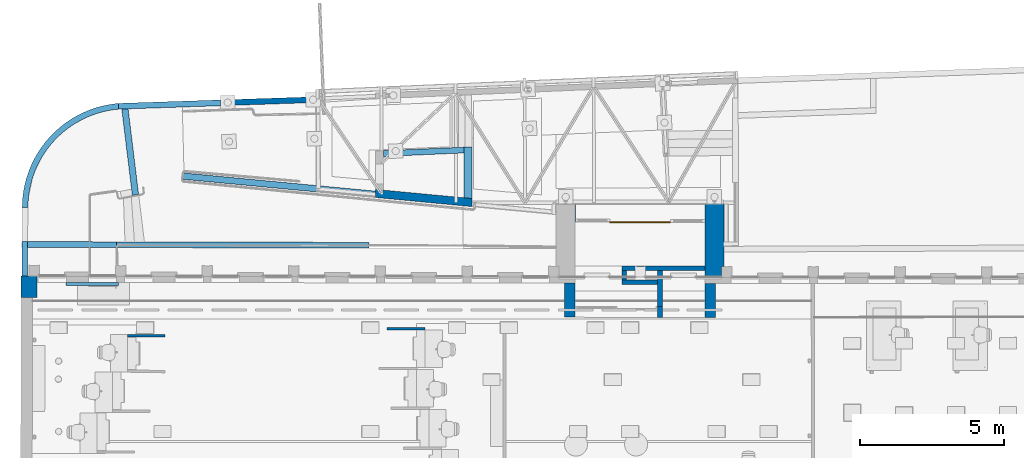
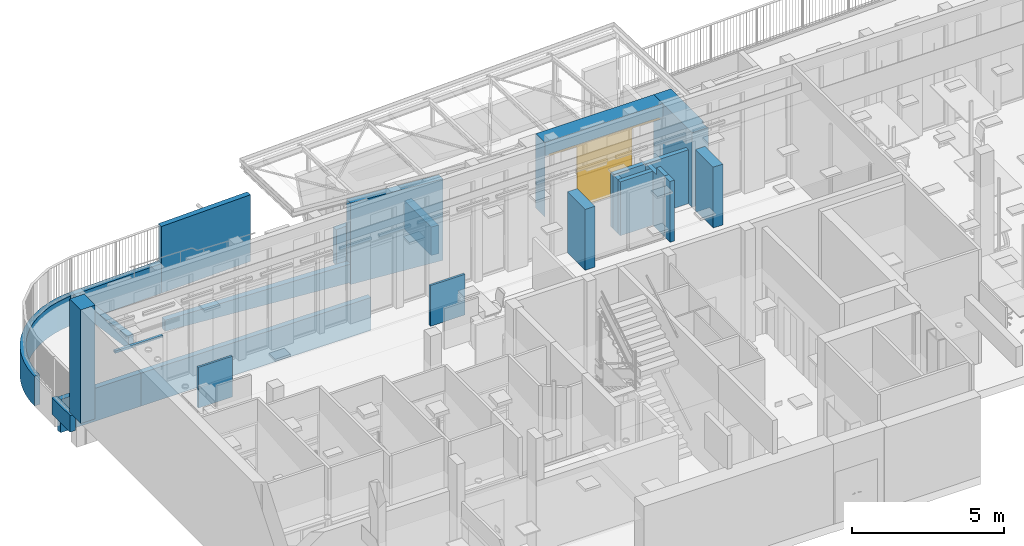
# One storey, part 31 of 128: 24 walls, 1 door, 5 openings.
"""IFC2X3 building model written with IfcOpenShell, lengths in metres."""

import ifcopenshell
import ifcopenshell.guid

model = None  # the IFC model being written
_history = None  # IfcOwnerHistory: only IFC2X3 demands one
_inside = {}  # id of a spatial element -> (the spatial element, [elements in it])
_under = {}  # id of a project, library or spatial element -> (it, [spatial elements below it])
_declared = {}  # id of a project -> (the project, [libraries it declares])
_typed = {}  # id of a type object -> (the type object, [elements of that type])
_made_of = {}  # id of a material, layer set ... -> (it, [elements and type objects made of it])


def new_model(schema):
    """Start an empty IFC model of exactly this schema.

    Asked for "IFC4X3", IfcOpenShell would pick the latest addendum, in which some entities
    have other attributes; the version numbers below select the first issue.
    IFC2X3 requires an IfcOwnerHistory on every rooted entity: one is made here for all.
    """
    global model, _history
    if schema == "IFC4X3":
        model = ifcopenshell.file(schema_version=(4, 3, 0, 0))
    else:
        model = ifcopenshell.file(schema=schema)
    _inside.clear()
    _under.clear()
    _declared.clear()
    _typed.clear()
    _made_of.clear()
    _history = None
    if model.schema == "IFC2X3":
        org = make("IfcOrganization", Name="unknown")
        user = make(
            "IfcPersonAndOrganization",
            ThePerson=make("IfcPerson", FamilyName="unknown"),
            TheOrganization=org,
        )
        app = make(
            "IfcApplication",
            ApplicationDeveloper=org,
            Version="unknown",
            ApplicationFullName="unknown",
            ApplicationIdentifier="unknown",
        )
        _history = make(
            "IfcOwnerHistory",
            OwningUser=user,
            OwningApplication=app,
            ChangeAction="ADDED",
            CreationDate=0,
        )
    return model


def make(cls, **values):
    """One entity of the class cls with the attributes given. An attribute that is None is left unset."""
    return model.create_entity(
        cls, **{name: value for name, value in values.items() if value is not None}
    )


def entity(cls, *values):
    """Any entity or typed value of the class cls, its attributes in the order of the schema. None: left unset."""
    e = model.create_entity(cls)
    for i, value in enumerate(values):
        if value is not None:
            e[i] = value
    return e


def rooted(cls, **values):
    """An entity with a GlobalId (a new one), such as an element, a storey or a relation."""
    return make(cls, GlobalId=ifcopenshell.guid.new(), OwnerHistory=_history, **values)


def si_unit(unit_type, name, prefix=None):
    """IfcSIUnit, for example si_unit("LENGTHUNIT", "METRE", prefix="MILLI")."""
    return make("IfcSIUnit", UnitType=unit_type, Prefix=prefix, Name=name)


def converted_unit(unit_type, name, factor, base, dimensions=None, offset=None):
    """IfcConversionBasedUnit, such as the inch: factor (a typed value) times the base unit."""
    return make(
        "IfcConversionBasedUnit"
        if offset is None
        else "IfcConversionBasedUnitWithOffset",
        ConversionOffset=offset,
        Dimensions=None
        if dimensions is None
        else entity("IfcDimensionalExponents", *dimensions),
        UnitType=unit_type,
        Name=name,
        ConversionFactor=make(
            "IfcMeasureWithUnit", ValueComponent=factor, UnitComponent=base
        ),
    )


def derived_unit(unit_type, elements):
    """IfcDerivedUnit: a product of units, each with its exponent."""
    return make(
        "IfcDerivedUnit",
        Elements=[
            make("IfcDerivedUnitElement", Unit=unit, Exponent=power)
            for unit, power in elements
        ],
        UnitType=unit_type,
    )


def assignment(units):
    """IfcUnitAssignment: the units of a project."""
    return None if units is None else make("IfcUnitAssignment", Units=units)


def point(xyz):
    """IfcCartesianPoint."""
    return None if xyz is None else make("IfcCartesianPoint", Coordinates=xyz)


def direction(xyz):
    """IfcDirection."""
    return None if xyz is None else make("IfcDirection", DirectionRatios=xyz)


def frame(location, z_axis=None, x_axis=None):
    """IfcAxis2Placement3D, a coordinate frame: its origin and axes. An axis left out is left unset."""
    return make(
        "IfcAxis2Placement3D",
        Location=point(location),
        Axis=direction(z_axis),
        RefDirection=direction(x_axis),
    )


def frame_2d(location, x_axis=None):
    """IfcAxis2Placement2D, a coordinate frame in the plane: its origin and x axis."""
    return make(
        "IfcAxis2Placement2D", Location=point(location), RefDirection=direction(x_axis)
    )


def origin():
    """The frame at (0, 0, 0) with its axes left unset."""
    return frame((0.0, 0.0, 0.0))


def origin_2d_with_axis():
    """The frame at (0, 0) in the plane with the x axis (1, 0) written out."""
    return frame_2d((0.0, 0.0), x_axis=(1.0, 0.0))


def place(relative_to, where):
    """IfcLocalPlacement: puts the frame where relative to a parent placement (None: the world)."""
    return make(
        "IfcLocalPlacement", PlacementRelTo=relative_to, RelativePlacement=where
    )


def context(
    kind, dimensions, precision=None, world=None, true_north=None, identifier=None
):
    """IfcGeometricRepresentationContext, for example the 3D "Model" context."""
    return make(
        "IfcGeometricRepresentationContext",
        ContextIdentifier=identifier,
        ContextType=kind,
        CoordinateSpaceDimension=dimensions,
        Precision=precision,
        WorldCoordinateSystem=world,
        TrueNorth=true_north,
    )


def subcontext(parent, identifier, kind, view, scale=None):
    """IfcGeometricRepresentationSubContext, for example "Body" below "Model"."""
    return make(
        "IfcGeometricRepresentationSubContext",
        ContextIdentifier=identifier,
        ContextType=kind,
        ParentContext=parent,
        TargetScale=scale,
        TargetView=view,
    )


def project(units=None, contexts=None):
    """IfcProject with its units and contexts."""
    return rooted(
        "IfcProject",
        Name="project",
        RepresentationContexts=contexts,
        UnitsInContext=assignment(units),
    )


def spatial(cls, under=None, at=None, **own):
    """A site, building, storey or space (cls), placed at a placement, below another one or the project."""
    s = rooted(cls, ObjectPlacement=at, **own)
    if under is not None:
        _under.setdefault(under.id(), (under, []))[1].append(s)
    return s


def polyline(points):
    """IfcPolyline through the points."""
    return make("IfcPolyline", Points=[point(p) for p in points])


def circle_curve(where, radius):
    """IfcCircle in the frame where."""
    return make("IfcCircle", Position=where, Radius=radius)


def parameter(value):
    """IfcParameterValue: where a trimmed curve begins or ends, as a parameter of its basis curve."""
    return model.create_entity("IfcParameterValue", value)


def trimmed(basis, trim1, trim2, sense, master):
    """IfcTrimmedCurve: the piece of a basis curve between two trims."""
    return make(
        "IfcTrimmedCurve",
        BasisCurve=basis,
        Trim1=trim1,
        Trim2=trim2,
        SenseAgreement=sense,
        MasterRepresentation=master,
    )


def segment(curve, same_sense, transition):
    """IfcCompositeCurveSegment."""
    return make(
        "IfcCompositeCurveSegment",
        Transition=transition,
        SameSense=same_sense,
        ParentCurve=curve,
    )


def composite_curve(segments, self_intersect=None):
    """IfcCompositeCurve: segments joined end to end."""
    return make("IfcCompositeCurve", Segments=segments, SelfIntersect=self_intersect)


def profile(cls, at=None, kind="AREA", **sizes):
    """A parametric profile (cls). Its sizes go by their IFC names, for example OverallWidth=200.0."""
    return make(cls, ProfileType=kind, Position=at, **sizes)


def rectangle(**sizes):
    """IfcRectangleProfileDef."""
    return profile("IfcRectangleProfileDef", **sizes)


def outline(outer, holes=None, kind="AREA"):
    """IfcArbitraryClosedProfileDef: a profile drawn as a closed curve; with holes, ...WithVoids."""
    if holes is None:
        return make("IfcArbitraryClosedProfileDef", ProfileType=kind, OuterCurve=outer)
    return make(
        "IfcArbitraryProfileDefWithVoids",
        ProfileType=kind,
        OuterCurve=outer,
        InnerCurves=holes,
    )


def extrude(swept, where, along, depth):
    """IfcExtrudedAreaSolid: the profile swept, set in the frame where, extruded along a direction by depth."""
    return make(
        "IfcExtrudedAreaSolid",
        SweptArea=swept,
        Position=where,
        ExtrudedDirection=direction(along),
        Depth=depth,
    )


def clip(a, b, op="DIFFERENCE"):
    """IfcBooleanClippingResult: the solid a cut by the half space b."""
    return make(
        "IfcBooleanClippingResult", Operator=op, FirstOperand=a, SecondOperand=b
    )


def halfspace(plane, agree):
    """IfcHalfSpaceSolid: all space on one side of the plane z = 0 of the frame plane."""
    return make(
        "IfcHalfSpaceSolid",
        BaseSurface=make("IfcPlane", Position=plane),
        AgreementFlag=agree,
    )


def bounded_halfspace(plane, agree, where, boundary):
    """IfcPolygonalBoundedHalfSpace: a half space limited to a polygon's prism."""
    return make(
        "IfcPolygonalBoundedHalfSpace",
        BaseSurface=make("IfcPlane", Position=plane),
        AgreementFlag=agree,
        Position=where,
        PolygonalBoundary=boundary,
    )


def shape(context_of_items, identifier, shape_type, items):
    """IfcShapeRepresentation: the items that make up one representation, for example the "Body"."""
    return make(
        "IfcShapeRepresentation",
        ContextOfItems=context_of_items,
        RepresentationIdentifier=identifier,
        RepresentationType=shape_type,
        Items=items,
    )


def source(mapping_origin, context_of_items, identifier, shape_type, items):
    """IfcRepresentationMap: a shape defined once, which mapped items show again and again."""
    return make(
        "IfcRepresentationMap",
        MappingOrigin=mapping_origin,
        MappedRepresentation=shape(context_of_items, identifier, shape_type, items),
    )


def transform(
    local_origin,
    x_axis=None,
    y_axis=None,
    z_axis=None,
    scale=None,
    scale2=None,
    scale3=None,
    uniform=True,
):
    """IfcCartesianTransformationOperator3D, or its non-uniform kind. x_axis, y_axis, z_axis: its Axis1, 2, 3."""
    if uniform:
        return make(
            "IfcCartesianTransformationOperator3D",
            Axis1=direction(x_axis),
            Axis2=direction(y_axis),
            LocalOrigin=point(local_origin),
            Scale=scale,
            Axis3=direction(z_axis),
        )
    return make(
        "IfcCartesianTransformationOperator3DnonUniform",
        Axis1=direction(x_axis),
        Axis2=direction(y_axis),
        LocalOrigin=point(local_origin),
        Scale=scale,
        Axis3=direction(z_axis),
        Scale2=scale2,
        Scale3=scale3,
    )


def mapped(mapping_source, mapping_target):
    """IfcMappedItem: shows the shape of a source again, moved by a transform."""
    return make(
        "IfcMappedItem", MappingSource=mapping_source, MappingTarget=mapping_target
    )


def material(Name=None, Category=None):
    """IfcMaterial."""
    return make("IfcMaterial", Name=Name, Category=Category)


def material_list(materials):
    """IfcMaterialList."""
    return make("IfcMaterialList", Materials=materials)


def layer(
    of_material, thickness, ventilated=None, Name=None, Category=None, Priority=None
):
    """IfcMaterialLayer: one layer of a wall or slab, of a material (None: an air gap)."""
    return make(
        "IfcMaterialLayer",
        Material=of_material,
        LayerThickness=thickness,
        IsVentilated=ventilated,
        Name=Name,
        Category=Category,
        Priority=Priority,
    )


def layer_set(layers, Name=None):
    """IfcMaterialLayerSet."""
    return make("IfcMaterialLayerSet", MaterialLayers=layers, LayerSetName=Name)


def layer_usage(for_layer_set, set_direction, sense, offset, extent=None):
    """IfcMaterialLayerSetUsage: how a layer set lies in its element."""
    return make(
        "IfcMaterialLayerSetUsage",
        ForLayerSet=for_layer_set,
        LayerSetDirection=set_direction,
        DirectionSense=sense,
        OffsetFromReferenceLine=offset,
        ReferenceExtent=extent,
    )


def made_of(thing, what):
    """Note that an element or type object is made of a material, layer set ...; save() writes the relation."""
    if what is not None:
        _made_of.setdefault(what.id(), (what, []))[1].append(thing)
    return thing


def type_object(cls, material=None, **own):
    """A type object (cls), such as IfcWallType, which elements share."""
    return made_of(rooted(cls, **own), material)


def type_shapes(of_type, sources):
    """Give a type object the sources (RepresentationMaps) that its elements show as mapped items."""
    of_type.RepresentationMaps = sources


def element(
    cls,
    number,
    at=None,
    inside=None,
    cuts=None,
    type_object=None,
    material=None,
    context=None,
    identifier="Body",
    shape_type=None,
    held_by="IfcProductDefinitionShape",
    body=None,
    shapes=None,
    **own,
):
    """One element of the class cls, such as IfcWall. Its Tag is "e" and its number.

    at: its placement. inside: the storey or other place that contains it. cuts: it is an
    opening in that element (IfcRelVoidsElement). A single representation is given by context,
    identifier, shape_type and body (its items); several are given by shapes. held_by: the class
    of the entity that holds the representations. save() writes the other relations.
    """
    e = rooted(cls, Tag="e%d" % number, ObjectPlacement=at, **own)
    if body is not None:
        shapes = [shape(context, identifier, shape_type, body)]
    if shapes is not None:
        e.Representation = make(held_by, Representations=shapes)
    if inside is not None:
        _inside.setdefault(inside.id(), (inside, []))[1].append(e)
    if cuts is not None:
        rooted(
            "IfcRelVoidsElement", RelatingBuildingElement=cuts, RelatedOpeningElement=e
        )
    if type_object is not None:
        _typed.setdefault(type_object.id(), (type_object, []))[1].append(e)
    return made_of(e, material)


def fill(opening, filler):
    """IfcRelFillsElement: the door or window that sits in an opening."""
    return rooted(
        "IfcRelFillsElement",
        RelatingOpeningElement=opening,
        RelatedBuildingElement=filler,
    )


def aggregate(whole, parts):
    """IfcRelAggregates: a whole, such as a stair, and the parts it consists of."""
    return rooted("IfcRelAggregates", RelatingObject=whole, RelatedObjects=parts)


def save(model, path):
    """Write the relations noted so far, then the file.

    IfcRelAggregates (storeys below a building ...), IfcRelContainedInSpatialStructure (elements
    in a storey), IfcRelDefinesByType, IfcRelAssociatesMaterial and IfcRelDeclares: one each for
    every whole, place, type object, material and project.
    """
    for whole, parts in _under.values():
        aggregate(whole, parts)
    for where, things in _inside.values():
        rooted(
            "IfcRelContainedInSpatialStructure",
            RelatedElements=things,
            RelatingStructure=where,
        )
    for kind, things in _typed.values():
        rooted("IfcRelDefinesByType", RelatedObjects=things, RelatingType=kind)
    for what, things in _made_of.values():
        rooted("IfcRelAssociatesMaterial", RelatedObjects=things, RelatingMaterial=what)
    for by, libraries in _declared.values():
        rooted("IfcRelDeclares", RelatingContext=by, RelatedDefinitions=libraries)
    model.write(path)


model = new_model("IFC2X3")

# Units and contexts
model_context = context("Model", 3, precision=1e-05, world=origin(), true_north=direction((6.123031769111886e-17, 1.0)))
body_context = subcontext(model_context, "Body", "Model", "MODEL_VIEW")
ifc_project = project(units=[si_unit("LENGTHUNIT", "METRE"), si_unit("AREAUNIT", "SQUARE_METRE"), converted_unit("PLANEANGLEUNIT", "DEGREE", entity("IfcPlaneAngleMeasure", 0.017453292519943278), si_unit("PLANEANGLEUNIT", "RADIAN"), dimensions=[0, 0, 0, 0, 0, 0, 0]), derived_unit("THERMALTRANSMITTANCEUNIT", [(si_unit("MASSUNIT", "GRAM", prefix="KILO"), 1), (si_unit("THERMODYNAMICTEMPERATUREUNIT", "KELVIN"), -1), (si_unit("TIMEUNIT", "SECOND"), -3)])], contexts=[model_context])

# Site, building, storey
site_placement = place(None, origin())
site = spatial("IfcSite", under=ifc_project, at=site_placement, Name="Default", CompositionType="ELEMENT")
building_placement = place(site_placement, origin())
building = spatial("IfcBuilding", under=site, at=building_placement, CompositionType="ELEMENT")
storey_placement = place(building_placement, origin())
storey = spatial("IfcBuildingStorey", under=building, at=storey_placement, Name="00_RDC CAF", CompositionType="ELEMENT", Elevation=2.4982504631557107e-13)

# Walls
ifc_material_1 = material(Name="STR - Beton Mur")
ifc_layer_1 = layer(ifc_material_1, 0.55)
ifc_layer_set_1 = layer_set([ifc_layer_1], Name="Mur de base:M_Ext_Beton_550mm")
ifc_layer_usage_1 = layer_usage(ifc_layer_set_1, "AXIS2", "POSITIVE", -0.275)
wall_type_1 = type_object("IfcWallType", Name="Mur de base:M_Ext_Beton_550mm", PredefinedType="STANDARD", material=ifc_layer_set_1)
wall_1_placement = place(storey_placement, frame((6.57658827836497, 144.17006989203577, 0.0), z_axis=(0.0, 0.0, 1.0), x_axis=(-0.002898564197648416, -0.9999957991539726, 0.0)))
element("IfcWallStandardCase", 1, at=wall_1_placement, inside=storey, type_object=wall_type_1, material=ifc_layer_usage_1, Name="Mur de base:M_Ext_Beton_550mm", ObjectType="Mur de base:M_Ext_Beton_550mm", context=body_context, shape_type="SweptSolid", body=[
    extrude(rectangle(XDim=0.7349999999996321, YDim=0.5500000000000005, at=frame_2d((0.36749999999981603, 1.3877787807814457e-16), x_axis=(-1.0, 0.0))), origin(), (0.0, 0.0, 1.0), 4.577999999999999),
])
ifc_material_2 = material(Name="ARC - Cloison")
ifc_layer_2 = layer(ifc_material_2, 0.08)
ifc_layer_set_2 = layer_set([ifc_layer_2], Name="Mur de base:Cl_Platre_80mm")
ifc_layer_usage_2 = layer_usage(ifc_layer_set_2, "AXIS2", "POSITIVE", -0.04)
wall_type_2 = type_object("IfcWallType", Name="Mur de base:Cl_Platre_80mm", PredefinedType="STANDARD", material=ifc_layer_set_2)
wall_2_placement = place(storey_placement, frame((9.987702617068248, 142.10467657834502, 0.15999999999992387)))
element("IfcWallStandardCase", 2, at=wall_2_placement, inside=storey, type_object=wall_type_2, material=ifc_layer_usage_2, Name="Mur de base:Cl_Platre_80mm", ObjectType="Mur de base:Cl_Platre_80mm", context=body_context, shape_type="SweptSolid", body=[
    extrude(rectangle(XDim=1.3015029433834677, YDim=0.08000000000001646, at=frame_2d((0.6507514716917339, 0.0), x_axis=(-1.0, 0.0))), origin(), (0.0, 0.0, 1.0), 1.64),
])
ifc_layer_3 = layer(ifc_material_2, 0.08)
ifc_layer_set_3 = layer_set([ifc_layer_3], Name="Mur de base:Cl_Sepration_80mm")
ifc_layer_usage_3 = layer_usage(ifc_layer_set_3, "AXIS2", "NEGATIVE", 0.04)
wall_type_3 = type_object("IfcWallType", Name="Mur de base:Cl_Sepration_80mm", PredefinedType="STANDARD", material=ifc_layer_set_3)
wall_3_placement = place(storey_placement, frame((20.287187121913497, 142.35182648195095, 0.15999999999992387), z_axis=(0.0, 0.0, 1.0), x_axis=(-1.0, 0.0, 0.0)))
element("IfcWallStandardCase", 3, at=wall_3_placement, inside=storey, type_object=wall_type_3, material=ifc_layer_usage_3, Name="Mur de base:Cl_Sepration_80mm", ObjectType="Mur de base:Cl_Sepration_80mm", context=body_context, shape_type="SweptSolid", body=[
    extrude(rectangle(XDim=1.3143558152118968, YDim=0.08000000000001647, at=frame_2d((0.6571779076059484, -2.0192181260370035e-15), x_axis=(-1.0, 0.0))), origin(), (0.0, 0.0, 1.0), 1.64),
])
ifc_layer_4 = layer(ifc_material_1, 0.36999999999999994)
ifc_layer_set_4 = layer_set([ifc_layer_4], Name="Mur de base:M_Int_Beton_370mm")
ifc_layer_usage_4 = layer_usage(ifc_layer_set_4, "AXIS2", "POSITIVE", -0.18499999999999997)
wall_type_4 = type_object("IfcWallType", Name="Mur de base:M_Int_Beton_370mm", PredefinedType="STANDARD", material=ifc_layer_set_4)
wall_4_placement = place(storey_placement, frame((28.348997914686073, 142.9295919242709, 0.0), z_axis=(0.0, 0.0, 1.0), x_axis=(0.9999987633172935, -0.0015726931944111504, 0.0)))
element("IfcWallStandardCase", 4, at=wall_4_placement, inside=storey, type_object=wall_type_4, material=ifc_layer_usage_4, Name="Mur de base:M_Int_Beton_370mm", ObjectType="Mur de base:M_Int_Beton_370mm", context=body_context, shape_type="SweptSolid", body=[
    extrude(outline(polyline([(-0.09829446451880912, -0.1479999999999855), (0.06170573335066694, -0.14799999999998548), (0.06773254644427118, -0.14799999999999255), (0.06773254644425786, 0.22199999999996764), (-0.09887636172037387, 0.22199999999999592), (-0.09829446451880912, -0.1479999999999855)])), frame((0.06773254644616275, 0.037000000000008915, 0.0), z_axis=(0.0, 0.0, 1.0), x_axis=(-1.0, 0.0, 0.0)), (0.0, 0.0, 1.0), 2.4499999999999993),
])
ifc_layer_usage_5 = layer_usage(ifc_layer_set_4, "AXIS2", "NEGATIVE", 0.18499999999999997)
wall_5_placement = place(storey_placement, frame((25.303710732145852, 142.7493810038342, 0.0), z_axis=(0.0, 0.0, 1.0), x_axis=(0.0015726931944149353, 0.9999987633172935, 0.0)))
element("IfcWallStandardCase", 5, at=wall_5_placement, inside=storey, type_object=wall_type_4, material=ifc_layer_usage_5, Name="Mur de base:M_Int_Beton_370mm", ObjectType="Mur de base:M_Int_Beton_370mm", context=body_context, shape_type="SweptSolid", body=[
    extrude(rectangle(XDim=1.179996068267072, YDim=0.3700000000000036, at=frame_2d((0.589998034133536, -4.440892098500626e-16), x_axis=(-1.0, 0.0))), origin(), (0.0, 0.0, 1.0), 2.45),
])
ifc_layer_usage_6 = layer_usage(ifc_layer_set_4, "AXIS2", "POSITIVE", -0.18499999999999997)
wall_6_placement = place(storey_placement, frame((30.175434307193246, 142.7417192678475, 0.0), z_axis=(0.0, 0.0, 1.0), x_axis=(0.0015726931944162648, 0.9999987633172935, 0.0)))
element("IfcWallStandardCase", 6, at=wall_6_placement, inside=storey, type_object=wall_type_4, material=ifc_layer_usage_6, Name="Mur de base:M_Int_Beton_370mm", ObjectType="Mur de base:M_Int_Beton_370mm", context=body_context, shape_type="SweptSolid", body=[
    extrude(rectangle(XDim=1.1799960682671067, YDim=0.3700000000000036, at=frame_2d((0.5899980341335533, 3.7470027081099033e-16), x_axis=(-1.0, 0.0))), origin(), (0.0, 0.0, 1.0), 2.45),
])
ifc_layer_5 = layer(ifc_material_1, 0.6599999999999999)
ifc_layer_set_5 = layer_set([ifc_layer_5], Name="Mur de base:M_Int_Beton_660mm")
ifc_layer_usage_7 = layer_usage(ifc_layer_set_5, "AXIS2", "POSITIVE", -0.32999999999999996)
wall_type_5 = type_object("IfcWallType", Name="Mur de base:M_Int_Beton_660mm", PredefinedType="STANDARD", material=ifc_layer_set_5)
wall_7_placement = place(storey_placement, frame((30.32072502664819, 144.13200754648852, 0.0), z_axis=(0.0, 0.0, 1.0), x_axis=(0.0, 1.0, 0.0)))
element("IfcWallStandardCase", 7, at=wall_7_placement, inside=storey, type_object=wall_type_5, material=ifc_layer_usage_7, Name="Mur de base:M_Int_Beton_660mm", ObjectType="Mur de base:M_Int_Beton_660mm", context=body_context, shape_type="SweptSolid", body=[
    extrude(outline(polyline([(-0.37062327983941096, -0.6519551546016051), (0.25122286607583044, -0.6519551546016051), (0.2512228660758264, -0.6219551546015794), (0.2054228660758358, -0.6219551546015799), (0.20542286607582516, -0.26695515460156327), (0.2887864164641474, -0.2760908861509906), (0.285390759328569, 1.8830415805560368), (-0.37460842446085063, 1.8820036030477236), (-0.3712442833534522, -0.25708936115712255), (-0.37099265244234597, -0.41708916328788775), (-0.37062327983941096, -0.6519551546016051)])), frame((0.6513714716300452, -0.04164814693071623, 0.0), z_axis=(0.0, 0.0, 1.0), x_axis=(-0.0015726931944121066, -0.9999987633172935, 0.0)), (0.0, 0.0, 1.0), 2.999999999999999),
])
ifc_layer_6 = layer(ifc_material_2, 0.16)
ifc_layer_set_6 = layer_set([ifc_layer_6], Name="Mur de base:Cl_Platre_160mm")
ifc_layer_usage_8 = layer_usage(ifc_layer_set_6, "AXIS2", "POSITIVE", -0.08)
wall_type_6 = type_object("IfcWallType", Name="Mur de base:Cl_Platre_160mm", PredefinedType="STANDARD", material=ifc_layer_set_6)
wall_8_placement = place(storey_placement, frame((29.990725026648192, 144.4468738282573, 0.0), z_axis=(0.0, 0.0, 1.0), x_axis=(-1.0, 0.0, 0.0)))
element("IfcWallStandardCase", 8, at=wall_8_placement, inside=storey, type_object=wall_type_6, material=ifc_layer_usage_8, Name="Mur de base:Cl_Platre_160mm", ObjectType="Mur de base:Cl_Platre_160mm", context=body_context, shape_type="Clipping", body=[
    clip(extrude(rectangle(XDim=2.8743603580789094, YDim=0.15999999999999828, at=frame_2d((1.4371801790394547, 0.0), x_axis=(-1.0, 0.0))), origin(), (0.0, 0.0, 1.0), 2.1710530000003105), bounded_halfspace(frame((0.0, -0.07999999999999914, 2.1710530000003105), z_axis=(0.0, 0.0, 1.0), x_axis=(-1.0, 0.0, 0.0)), False, frame((0.0, -0.07999999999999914, 2.1710530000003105)), polyline([(0.0, 0.0), (2.8743603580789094, 0.0), (2.8743603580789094, 0.15999999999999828), (2.714360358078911, 0.15999999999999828), (1.6354093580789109, 0.15999999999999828), (1.4754093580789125, 0.15999999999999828), (0.0, 0.15999999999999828), (0.0, 0.0)]))),
])
ifc_layer_usage_9 = layer_usage(ifc_layer_set_6, "AXIS2", "NEGATIVE", 0.08)
wall_9_placement = place(storey_placement, frame((28.43531566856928, 143.11433058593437, 0.0), z_axis=(0.0, 0.0, 1.0), x_axis=(0.0, 1.0, 0.0)))
element("IfcWallStandardCase", 9, at=wall_9_placement, inside=storey, type_object=wall_type_6, material=ifc_layer_usage_9, Name="Mur de base:Cl_Platre_160mm", ObjectType="Mur de base:Cl_Platre_160mm", context=body_context, shape_type="Clipping", body=[
    clip(extrude(outline(polyline([(1.2525432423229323, -0.07999999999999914), (1.2525432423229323, 0.07999999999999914), (0.9318452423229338, 0.07999999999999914), (0.7718452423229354, 0.07999999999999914), (0.00025163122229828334, 0.07999999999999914), (0.0, -0.07999999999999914), (1.2525432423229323, -0.07999999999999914)])), origin(), (0.0, 0.0, 1.0), 2.4500000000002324), bounded_halfspace(frame((0.541977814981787, -0.07999999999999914, 2.17105300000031), z_axis=(0.0, 0.0, 1.0), x_axis=(0.0, -1.0, 0.0)), False, frame((0.541977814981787, -0.07999999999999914, 2.17105300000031)), polyline([(0.0, 0.0), (0.7105654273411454, 0.0), (0.7105654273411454, 0.15999999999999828), (0.38986742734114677, 0.15999999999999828), (0.2298674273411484, 0.15999999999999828), (0.0003039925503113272, 0.15999999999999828), (0.0, 0.0)]))),
])
ifc_layer_usage_10 = layer_usage(ifc_layer_set_6, "AXIS2", "NEGATIVE", 0.08)
wall_10_placement = place(storey_placement, frame((28.355315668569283, 143.9661758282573, 0.0), z_axis=(0.0, 0.0, 1.0), x_axis=(-1.0, 0.0, 0.0)))
element("IfcWallStandardCase", 10, at=wall_10_placement, inside=storey, type_object=wall_type_6, material=ifc_layer_usage_10, Name="Mur de base:Cl_Platre_160mm", ObjectType="Mur de base:Cl_Platre_160mm", context=body_context, shape_type="Clipping", body=[
    clip(extrude(rectangle(XDim=1.2389509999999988, YDim=0.15999999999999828, at=frame_2d((0.6194754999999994, 0.0), x_axis=(-1.0, 0.0))), origin(), (0.0, 0.0, 1.0), 2.1710530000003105), bounded_halfspace(frame((0.0, -0.07999999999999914, 2.1710530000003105), z_axis=(0.0, 0.0, 1.0), x_axis=(-1.0, 0.0, 0.0)), False, frame((0.0, -0.07999999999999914, 2.1710530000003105)), polyline([(0.0, 0.0), (1.0789510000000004, 0.0), (1.2389509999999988, 0.0), (1.2389509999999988, 0.15999999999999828), (0.0, 0.15999999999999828), (0.0, 0.0)]))),
])
ifc_layer_usage_11 = layer_usage(ifc_layer_set_6, "AXIS2", "NEGATIVE", 0.08)
wall_11_placement = place(storey_placement, frame((27.19636466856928, 144.0461758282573, 0.0), z_axis=(0.0, 0.0, 1.0), x_axis=(0.0, 1.0, 0.0)))
element("IfcWallStandardCase", 11, at=wall_11_placement, inside=storey, type_object=wall_type_6, material=ifc_layer_usage_11, Name="Mur de base:Cl_Platre_160mm", ObjectType="Mur de base:Cl_Platre_160mm", context=body_context, shape_type="Clipping", body=[
    clip(extrude(rectangle(XDim=0.32069799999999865, YDim=0.15999999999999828, at=frame_2d((0.16034899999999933, 0.0), x_axis=(-1.0, 0.0))), origin(), (0.0, 0.0, 1.0), 2.1710530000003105), bounded_halfspace(frame((0.0, -0.07999999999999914, 2.1710530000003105), z_axis=(0.0, 0.0, 1.0), x_axis=(0.0, -1.0, 0.0)), False, frame((0.0, -0.07999999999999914, 2.1710530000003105)), polyline([(0.0, 0.0), (0.32069799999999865, 0.0), (0.32069799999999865, 0.15999999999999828), (0.0, 0.15999999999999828), (0.0, 0.0)]))),
])
ifc_layer_7 = layer(ifc_material_1, 0.2)
ifc_layer_set_7 = layer_set([ifc_layer_7], Name="Mur de base:M_Ext_Beton_200mm")
ifc_layer_usage_12 = layer_usage(ifc_layer_set_7, "AXIS2", "POSITIVE", -0.1)
wall_type_7 = type_object("IfcWallType", Name="Mur de base:M_Ext_Beton_200mm", PredefinedType="STANDARD", material=ifc_layer_set_7)
wall_12_placement = place(storey_placement, frame((16.662670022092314, 150.2929217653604, -1.196000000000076), z_axis=(0.0, 0.0, 1.0), x_axis=(-0.9994329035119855, -0.03367300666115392, 0.0)))
element("IfcWallStandardCase", 12, at=wall_12_placement, inside=storey, type_object=wall_type_7, material=ifc_layer_usage_12, Name="Mur de base:M_Ext_Beton_200mm", ObjectType="Mur de base:M_Ext_Beton_200mm", context=body_context, shape_type="SweptSolid", body=[
    extrude(rectangle(XDim=3.4573779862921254, YDim=0.1999999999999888, at=frame_2d((1.7286889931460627, -2.9073965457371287e-15), x_axis=(-1.0, 0.0))), origin(), (0.0, 0.0, 1.0), 2.6859999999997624),
])
ifc_layer_usage_13 = layer_usage(ifc_layer_set_7, "AXIS2", "POSITIVE", -0.1)
wall_13_placement = place(storey_placement, frame((9.68021344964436, 150.0577858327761, -1.196000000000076)))
element("IfcWallStandardCase", 13, at=wall_13_placement, inside=storey, type_object=wall_type_7, material=ifc_layer_usage_13, Name="Mur de base:M_Ext_Beton_200mm", ObjectType="Mur de base:M_Ext_Beton_200mm", context=body_context, shape_type="SweptSolid", body=[
    extrude(outline(composite_curve([segment(trimmed(circle_curve(frame_2d((0.2900796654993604, -3.5207372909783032), x_axis=(1.0, 0.0)), 3.4326671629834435), [parameter(94.78992738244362)], [parameter(179.78747969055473)], True, "PARAMETER"), False, "CONTINUOUS"), segment(polyline([(0.003442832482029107, -0.1000585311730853), (-0.008211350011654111, 0.09966229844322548)]), True, "CONTINUOUS"), segment(trimmed(circle_curve(frame_2d((0.2900796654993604, -3.5207372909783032), x_axis=(1.0, 0.0)), 3.6326671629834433), [parameter(94.71006017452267)], [parameter(179.77199772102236)], True, "PARAMETER"), True, "CONTINUOUS"), segment(polyline([(-3.3425587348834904, -3.5062815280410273), (-3.142563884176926, -3.5080049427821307)]), True, "CONTINUOUS")], self_intersect=False)), origin(), (0.0, 0.0, 1.0), 1.196000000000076),
])
ifc_layer_usage_14 = layer_usage(ifc_layer_set_7, "AXIS2", "POSITIVE", -0.1)
wall_14_placement = place(storey_placement, frame((6.421933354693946, 145.37728415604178, -0.8000000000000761), z_axis=(0.0, 0.0, 1.0), x_axis=(0.0, -1.0, 0.0)))
element("IfcWallStandardCase", 14, at=wall_14_placement, inside=storey, type_object=wall_type_7, material=ifc_layer_usage_14, Name="Mur de base:M_Ext_Beton_200mm", ObjectType="Mur de base:M_Ext_Beton_200mm", context=body_context, shape_type="SweptSolid", body=[
    extrude(outline(polyline([(1.2064761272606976, -0.1), (1.2064761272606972, 0.1), (0.001338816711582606, 0.1), (0.0, -0.1), (1.2064761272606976, -0.1)])), origin(), (0.0, 0.0, 1.0), 0.6659280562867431),
])

# Wall, opening
ifc_layer_usage_15 = layer_usage(ifc_layer_set_7, "AXIS2", "NEGATIVE", 0.1)
wall_15_placement = place(storey_placement, frame((9.596517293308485, 145.26248326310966, -1.500000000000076), z_axis=(0.0, 0.0, 1.0), x_axis=(0.9999974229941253, -0.0022702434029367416, 0.0)))
wall_15 = element("IfcWallStandardCase", 15, at=wall_15_placement, inside=storey, type_object=wall_type_7, material=ifc_layer_usage_15, Name="Mur de base:M_Ext_Beton_200mm", ObjectType="Mur de base:M_Ext_Beton_200mm", context=body_context, shape_type="SweptSolid", body=[
    extrude(rectangle(XDim=8.752903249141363, YDim=0.20000000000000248, at=frame_2d((4.376451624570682, 1.1518563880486e-15), x_axis=(-1.0, 0.0))), origin(), (0.0, 0.0, 1.0), 1.3305408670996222),
])
opening_1_placement = place(storey_placement, frame((9.596517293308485, 145.26248326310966, -1.500000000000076), z_axis=(0.0, 0.0, 1.0), x_axis=(0.9999974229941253, -0.0022702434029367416, 0.0)))
element("IfcOpeningElement", 16, at=opening_1_placement, cuts=wall_15, Name="Mur de base:M_Ext_Beton_200mm:1", ObjectType="Opening", context=body_context, shape_type="SweptSolid", body=[
    extrude(outline(polyline([(-0.531776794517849, -3.855910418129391), (-0.43856755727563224, -3.855910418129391), (0.5390596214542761, 3.849186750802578), (0.4312847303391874, 3.862634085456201), (-0.531776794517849, -3.855910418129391)])), frame((4.8665912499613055, 0.04972434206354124, 0.8000000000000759), z_axis=(0.0, 0.0, 1.0), x_axis=(0.12381238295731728, -0.9923056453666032, 0.0)), (0.0, 0.0, 1.0), 0.19999999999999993),
])

# Walls
ifc_layer_usage_16 = layer_usage(ifc_layer_set_7, "AXIS2", "POSITIVE", -0.1)
wall_16_placement = place(storey_placement, frame((9.596517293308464, 145.26248326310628, -1.500000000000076), z_axis=(0.0, 0.0, 1.0), x_axis=(-0.9999974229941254, 0.002270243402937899, 0.0)))
element("IfcWallStandardCase", 17, at=wall_16_placement, inside=storey, type_object=wall_type_7, material=ifc_layer_usage_16, Name="Mur de base:M_Ext_Beton_200mm", ObjectType="Mur de base:M_Ext_Beton_200mm", context=body_context, shape_type="SweptSolid", body=[
    extrude(outline(polyline([(3.0748188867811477, -0.10000000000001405), (3.0743648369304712, 0.1000000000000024), (0.0, 0.10000000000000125), (0.0, -0.10000000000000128), (3.0748188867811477, -0.10000000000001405)])), origin(), (0.0, 0.0, 1.0), 1.3305408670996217),
])
ifc_layer_usage_17 = layer_usage(ifc_layer_set_7, "AXIS2", "NEGATIVE", 0.1)
wall_17_placement = place(storey_placement, frame((18.848173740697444, 148.41846362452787, -0.9960293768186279), z_axis=(0.0, 0.0, 1.0), x_axis=(0.9990648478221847, 0.04323690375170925, 0.0)))
element("IfcWallStandardCase", 18, at=wall_17_placement, inside=storey, type_object=wall_type_7, material=ifc_layer_usage_17, Name="Mur de base:M_Ext_Beton_200mm", ObjectType="Mur de base:M_Ext_Beton_200mm", context=body_context, shape_type="SweptSolid", body=[
    extrude(outline(polyline([(2.786688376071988, -0.09999999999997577), (2.7946786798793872, 0.1000000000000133), (0.0077248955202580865, 0.1000000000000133), (0.0, -0.09999999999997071), (2.786688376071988, -0.09999999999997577)])), origin(), (0.0, 0.0, 1.0), 1.44602937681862),
])
ifc_layer_usage_18 = layer_usage(ifc_layer_set_7, "AXIS2", "POSITIVE", -0.1)
wall_18_placement = place(storey_placement, frame((13.207252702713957, 150.17650145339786, -1.196000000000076), z_axis=(0.0, 0.0, 1.0), x_axis=(-0.9994329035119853, -0.03367300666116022, 0.0)))
element("IfcWallStandardCase", 19, at=wall_18_placement, inside=storey, type_object=wall_type_7, material=ifc_layer_usage_18, Name="Mur de base:M_Ext_Beton_200mm", ObjectType="Mur de base:M_Ext_Beton_200mm", context=body_context, shape_type="SweptSolid", body=[
    extrude(outline(polyline([(3.5338873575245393, -0.09999999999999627), (3.5289649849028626, 0.09999999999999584), (0.0, 0.09999999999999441), (0.0, -0.1000000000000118), (3.5338873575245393, -0.09999999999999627)])), origin(), (0.0, 0.0, 1.0), 1.196000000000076),
])
ifc_layer_8 = layer(ifc_material_1, 0.28)
ifc_layer_set_8 = layer_set([ifc_layer_8], Name="Mur de base:M_Ext_Beton_280mm")
ifc_layer_usage_19 = layer_usage(ifc_layer_set_8, "AXIS2", "POSITIVE", -0.14)
wall_type_8 = type_object("IfcWallType", Name="Mur de base:M_Ext_Beton_280mm", PredefinedType="STANDARD", material=ifc_layer_set_8)
wall_19_placement = place(storey_placement, frame((18.56461079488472, 147.03900399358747, -0.8000000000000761), z_axis=(0.0, 0.0, 1.0), x_axis=(0.9955587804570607, -0.09414199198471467, 0.0)))
element("IfcWallStandardCase", 20, at=wall_19_placement, inside=storey, type_object=wall_type_8, material=ifc_layer_usage_19, Name="Mur de base:M_Ext_Beton_280mm", ObjectType="Mur de base:M_Ext_Beton_280mm", context=body_context, shape_type="SweptSolid", body=[
    extrude(outline(polyline([(3.3863595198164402, -0.14000000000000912), (3.35894393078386, 0.139999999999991), (0.0, 0.14000000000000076), (0.027790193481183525, -0.14000000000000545), (3.3863595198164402, -0.14000000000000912)])), origin(), (0.0, 0.0, 1.0), 3.2800000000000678),
])
ifc_layer_usage_20 = layer_usage(ifc_layer_set_8, "AXIS2", "POSITIVE", -0.14)
wall_20_placement = place(storey_placement, frame((21.78181756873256, 146.86169973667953, -0.700000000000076), z_axis=(0.0, 0.0, 1.0), x_axis=(-0.003320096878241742, 0.9999944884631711, 0.0)))
element("IfcWallStandardCase", 21, at=wall_20_placement, inside=storey, type_object=wall_type_8, material=ifc_layer_usage_20, Name="Mur de base:M_Ext_Beton_280mm", ObjectType="Mur de base:M_Ext_Beton_280mm", context=body_context, shape_type="SweptSolid", body=[
    extrude(outline(polyline([(1.7891646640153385, -0.14000000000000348), (1.7779782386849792, 0.13999999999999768), (0.027415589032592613, 0.1399999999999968), (0.0, -0.1400000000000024), (1.7891646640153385, -0.14000000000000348)])), origin(), (0.0, 0.0, 1.0), 1.150000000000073),
])
ifc_layer_9 = layer(ifc_material_1, 0.22)
ifc_layer_set_9 = layer_set([ifc_layer_9], Name="Mur de base:M_Ext_Beton_220mm")
ifc_layer_usage_21 = layer_usage(ifc_layer_set_9, "AXIS2", "NEGATIVE", 0.11)
wall_type_9 = type_object("IfcWallType", Name="Mur de base:M_Ext_Beton_220mm", PredefinedType="STANDARD", material=ifc_layer_set_9)
wall_21_placement = place(storey_placement, frame((11.87837719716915, 147.64113353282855, -0.720000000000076), z_axis=(0.0, 0.0, 1.0), x_axis=(0.9955587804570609, -0.09414199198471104, 0.0)))
element("IfcWallStandardCase", 22, at=wall_21_placement, inside=storey, type_object=wall_type_9, material=ifc_layer_usage_21, Name="Mur de base:M_Ext_Beton_220mm", ObjectType="Mur de base:M_Ext_Beton_220mm", context=body_context, shape_type="Clipping", body=[
    clip(extrude(rectangle(XDim=6.741014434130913, YDim=0.2199999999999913, at=frame_2d((3.3705072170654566, -1.4085954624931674e-15), x_axis=(-1.0, 0.0))), origin(), (0.0, 0.0, 1.0), 0.7480269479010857), halfspace(frame((0.0, -0.11000000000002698, 0.4416039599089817), z_axis=(-0.04540961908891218, 0.0, 0.9989684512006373), x_axis=(0.0, 1.0, 0.0)), False)),
])
ifc_layer_usage_22 = layer_usage(ifc_layer_set_9, "AXIS2", "NEGATIVE", 0.11)
wall_22_placement = place(storey_placement, frame((9.895329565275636, 149.97455189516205, -0.5035564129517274), z_axis=(0.0, 0.0, 1.0), x_axis=(0.12155928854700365, -0.9925841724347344, 0.0)))
element("IfcWallStandardCase", 23, at=wall_22_placement, inside=storey, type_object=wall_type_9, material=ifc_layer_usage_22, Name="Mur de base:M_Ext_Beton_220mm", ObjectType="Mur de base:M_Ext_Beton_220mm", context=body_context, shape_type="SweptSolid", body=[
    extrude(outline(polyline([(3.0162884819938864, -0.11000000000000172), (3.0008355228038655, 0.10999999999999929), (0.019450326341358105, 0.11000000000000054), (0.0, -0.1100000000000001), (2.7957464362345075, -0.11000000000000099), (3.0162884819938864, -0.11000000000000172)])), origin(), (0.0, 0.0, 1.0), 0.5137435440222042),
])

# Wall, opening
ifc_layer_10 = layer(ifc_material_1, 0.1)
ifc_layer_set_10 = layer_set([ifc_layer_10], Name="Mur de base:M_Int_Beton_100mm")
ifc_layer_usage_23 = layer_usage(ifc_layer_set_10, "AXIS2", "NEGATIVE", 0.05)
wall_type_10 = type_object("IfcWallType", Name="Mur de base:M_Int_Beton_100mm", PredefinedType="STANDARD", material=ifc_layer_set_10)
wall_23_placement = place(storey_placement, frame((9.67451659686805, 143.90395842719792, 2.024999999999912), z_axis=(0.0, 0.0, 1.0), x_axis=(-0.9999987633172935, 0.0015726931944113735, 0.0)))
wall_23 = element("IfcWallStandardCase", 24, at=wall_23_placement, inside=storey, type_object=wall_type_10, material=ifc_layer_usage_23, Name="Mur de base:M_Int_Beton_100mm", ObjectType="Mur de base:M_Int_Beton_100mm", context=body_context, shape_type="SweptSolid", body=[
    extrude(rectangle(XDim=1.8250000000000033, YDim=0.10000000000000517, at=frame_2d((0.9125000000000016, 1.6653345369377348e-16), x_axis=(-1.0, 0.0))), origin(), (0.0, 0.0, 1.0), 0.0949999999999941),
])
opening_2_placement = place(wall_23_placement, frame((1.0449999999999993, 0.04999999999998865, -2.024999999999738)))
element("IfcOpeningElement", 25, at=opening_2_placement, cuts=wall_23, Name="P_Coulissante_Applique:P_Ext_Coulissante_Applique_Pleine_980x2040mm:1", ObjectType="Opening", context=body_context, shape_type="SweptSolid", body=[
    extrude(rectangle(XDim=2.039999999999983, YDim=1.0099999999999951, at=frame_2d((1.0199999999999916, 0.5049999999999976), x_axis=(1.0, 0.0))), frame((0.0, 0.0, 0.0), z_axis=(0.0, -1.0, 0.0), x_axis=(0.0, 0.0, 1.0)), (0.0, 0.0, 1.0), 0.09999999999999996),
])

# Wall, openings, door
ifc_layer_11 = layer(ifc_material_1, 0.61)
ifc_layer_set_11 = layer_set([ifc_layer_11], Name="Mur de base:M_Int_Beton_610mm")
ifc_layer_usage_24 = layer_usage(ifc_layer_set_11, "AXIS2", "NEGATIVE", 0.305)
wall_type_11 = type_object("IfcWallType", Name="Mur de base:M_Int_Beton_610mm", PredefinedType="STANDARD", material=ifc_layer_set_11)
wall_24_placement = place(storey_placement, frame((25.49487233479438, 146.36096943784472, 0.0)))
wall_24 = element("IfcWallStandardCase", 26, at=wall_24_placement, inside=storey, type_object=wall_type_11, material=ifc_layer_usage_24, Name="Mur de base:M_Int_Beton_610mm", ObjectType="Mur de base:M_Int_Beton_610mm", context=body_context, shape_type="SweptSolid", body=[
    extrude(rectangle(XDim=4.495852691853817, YDim=0.6099999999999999, at=frame_2d((2.2479263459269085, 2.7755575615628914e-17), x_axis=(-1.0, 0.0))), origin(), (0.0, 0.0, 1.0), 2.9999999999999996),
])
opening_3_placement = place(wall_24_placement, origin())
element("IfcOpeningElement", 27, at=opening_3_placement, cuts=wall_24, Name="Mur de base:M_Int_Beton_610mm", ObjectType="Opening", context=body_context, shape_type="SweptSolid", body=[
    extrude(rectangle(XDim=2.45, YDim=1.1947786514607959, at=frame_2d((2.220446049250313e-16, 0.0), x_axis=(1.0, 0.0))), frame((3.898463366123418, -0.4574, 1.2249999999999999), z_axis=(0.0, 1.0, 0.0), x_axis=(0.0, 0.0, 1.0)), (0.0, 0.0, 1.0), 0.9148),
])
opening_4_placement = place(wall_24_placement, origin())
element("IfcOpeningElement", 28, at=opening_4_placement, cuts=wall_24, Name="Mur de base:M_Int_Beton_610mm", ObjectType="Opening", context=body_context, shape_type="SweptSolid", body=[
    extrude(rectangle(XDim=2.45, YDim=1.1947786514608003, at=frame_2d((-2.1649348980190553e-15, 0.0), x_axis=(0.0, 1.0))), frame((0.6036847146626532, -0.4574, 1.225), z_axis=(0.0, 1.0, 0.0), x_axis=(-1.0, 0.0, 0.0)), (0.0, 0.0, 1.0), 0.9148),
])
opening_5_placement = place(wall_24_placement, frame((3.301074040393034, 0.3049999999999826, 0.0)))
opening_5 = element("IfcOpeningElement", 29, at=opening_5_placement, cuts=wall_24, Name="P_Coulissante_Applique_Double:P_Ext_Coulissante_Applique_Double_Vitree_2100x2450mm:1", ObjectType="Opening", context=body_context, shape_type="SweptSolid", body=[
    extrude(rectangle(XDim=2.4499999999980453, YDim=2.0999999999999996, at=frame_2d((1.2249999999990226, 1.0499999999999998), x_axis=(1.0, 0.0))), frame((0.0, 0.0, 0.0), z_axis=(0.0, -1.0, 0.0), x_axis=(0.0, 0.0, 1.0)), (0.0, 0.0, 1.0), 0.61),
])
ifc_material_3 = material(Name="ARC - M.Ex - Verre")
ifc_material_4 = material(Name="ARC - M.Ex - Blanc")
ifc_material_list = material_list([ifc_material_3, ifc_material_4])
door_style = type_object("IfcDoorStyle", Name="P_Coulissante_Applique_Double:P_Ext_Coulissante_Applique_Double_Vitree_2100x2450mm", ConstructionType="NOTDEFINED", OperationType="NOTDEFINED", ParameterTakesPrecedence=False, Sizeable=False, material=ifc_material_list)
shared_shape = source(origin(), body_context, "Body", "SweptSolid", [
    extrude(rectangle(XDim=0.03500000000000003, YDim=1.0499999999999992, at=origin_2d_with_axis()), frame((1.5749999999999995, 0.6324999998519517, 0.0), z_axis=(0.0, 0.0, 1.0), x_axis=(0.0, 1.0, 0.0)), (0.0, 0.0, 1.0), 2.4599999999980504),
    extrude(rectangle(XDim=0.03500000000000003, YDim=1.0499999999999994, at=origin_2d_with_axis()), frame((0.525, 0.6324999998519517, 0.0), z_axis=(0.0, 0.0, 1.0), x_axis=(0.0, 1.0, 0.0)), (0.0, 0.0, 1.0), 2.4599999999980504),
    extrude(outline(polyline([(-0.022500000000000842, -0.022499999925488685), (0.01749999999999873, -0.022499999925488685), (0.01749999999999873, -0.017500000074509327), (-0.012499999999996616, -0.017500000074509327), (-0.012499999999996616, 0.017499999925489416), (0.01749999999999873, 0.017499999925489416), (0.01749999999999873, 0.022500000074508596), (-0.022500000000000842, 0.022500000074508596), (-0.022500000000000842, -0.022499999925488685)])), frame((-1.0499999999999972, 0.6324999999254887, 2.4674999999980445), z_axis=(1.0, 0.0, 0.0), x_axis=(0.0, 0.0, -1.0)), (0.0, 0.0, 1.0), 4.199999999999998),
])
type_shapes(door_style, [shared_shape])
door_placement = place(opening_5_placement, frame((0.0, 0.0, 0.0), z_axis=(0.0, 0.0, 1.0), x_axis=(-1.0, 0.0, 0.0)))
door = element("IfcDoor", 30, at=door_placement, inside=storey, type_object=door_style, material=ifc_material_list, Name="P_Coulissante_Applique_Double:P_Ext_Coulissante_Applique_Double_Vitree_2100x2450mm", ObjectType="P_Coulissante_Applique_Double:P_Ext_Coulissante_Applique_Double_Vitree_2100x2450mm", OverallHeight=2.4499999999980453, OverallWidth=2.099999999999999, context=body_context, shape_type="MappedRepresentation", body=[
    mapped(shared_shape, transform((0.0, 0.0, 0.0), scale=1.0)),
])
fill(opening_5, door)

save(model, "model.ifc")
